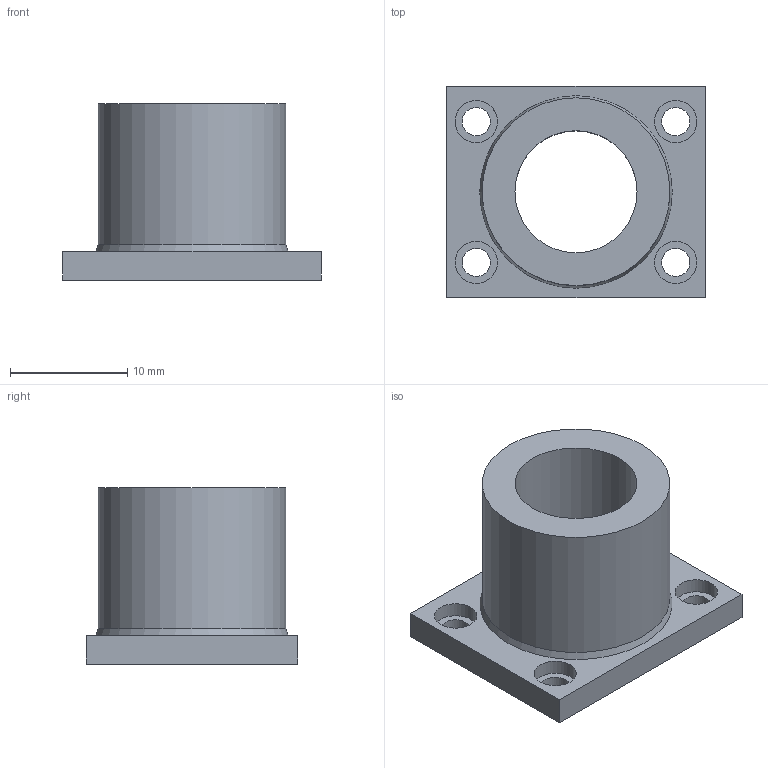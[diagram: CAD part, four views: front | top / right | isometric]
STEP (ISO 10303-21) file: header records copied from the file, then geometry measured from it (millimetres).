
FILE_DESCRIPTION(('Open CASCADE Model'),'2;1');
FILE_NAME('hollow_antenna_housing_placeholder','2026-10-06T17:21:02',( 'Author'),('Open CASCADE'),'Open CASCADE STEP processor 7.9', 'build123d','Unknown');
FILE_SCHEMA(('AUTOMOTIVE_DESIGN { 1 0 10303 214 1 1 1 1 }'));
Length unit declared in the file: millimetre
Products named in the file (2): hollow_antenna_housing_placeholder
Assembly tree (1 placements, depth 2):
  hollow_antenna_housing_placeholder
    hollow_antenna_housing_placeholder
Bounding box: 22 x 18 x 15 mm (x, y, z)
Volume: 2140.9 mm3; surface area: 1984.4 mm2
Topology: 1 solids, 1 shells, 22 faces, 44 edges, 29 vertices
Faces by surface type: plane 11, cylinder 10, cone 1
Full cylindrical faces by diameter (mm): 2.4 x4, 3.6 x4, 10.4 x1, 16 x1
Entity records: 1225 total; most frequent: DIRECTION 201, CARTESIAN_POINT 185, LINE 91, VECTOR 91, ORIENTED_EDGE 88, PCURVE 88, DEFINITIONAL_REPRESENTATION 88, AXIS2_PLACEMENT_3D 45
